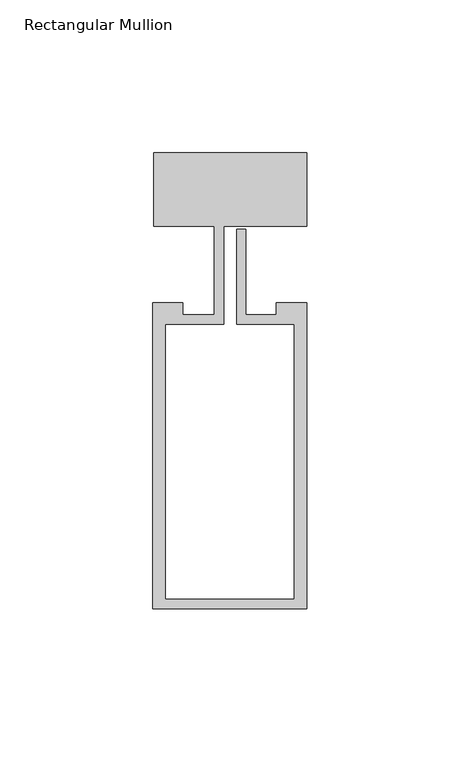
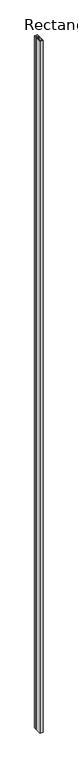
"""IFC4 building model written with IfcOpenShell, lengths in millimetres: member geometry, Rectangular Mullion : Reynaers_CW-50_Mullion-Transom_Horizontal_23.9mm_Facecap-02D."""

from ifc_helpers import new_model, si_unit, frame, origin, place, context, project, spatial, polyline, outline, extrude, source, transform, mapped, element, save


def rectangular_mullion_789dde8b(model_context):
    return source(origin(), model_context, "Body", "SweptSolid", [
        extrude(outline(polyline([(-24.8004059, 36.4), (25.1995941, 36.4), (25.1995941, 12.5), (-1.9004059, 12.5), (-1.9004059, -19.5), (-20.994845, -19.5), (-20.994845, -109.4191338), (21.1995941, -109.4191338), (21.1995941, -19.5), (2.2995941, -19.5), (2.2995941, 11.5), (5.2995941, 11.5), (5.2995941, -16.5), (15.2996495, -16.5), (15.2996495, -12.5), (25.1995941, -12.5), (25.1995941, -112.5), (-24.994845, -112.5), (-24.994845, -12.5), (-15.2996495, -12.5), (-15.2996495, -16.5), (-4.9004059, -16.5), (-4.9004059, 12.5), (-24.8004059, 12.5), (-24.8004059, 36.4)])), frame((0.0, 0.0, -12000.0), z_axis=(0.0, 0.0, 1.0), x_axis=(1.0, 0.0, 0.0)), (0.0, 0.0, 1.0), 12000.0),
    ])


if __name__ == "__main__":
    model = new_model("IFC4")
    model_context = context("Model", 3, world=origin())
    ifc_project = project(units=[si_unit("LENGTHUNIT", "METRE", prefix="MILLI")], contexts=[model_context])
    site = spatial("IfcSite", under=ifc_project)
    building = spatial("IfcBuilding", under=site)
    placement = place(None, origin())
    rectangular_mullion_shape = rectangular_mullion_789dde8b(model_context)
    element("IfcMember", 1, ObjectType="Rectangular Mullion : Reynaers_CW-50_Mullion-Transom_Horizontal_23.9mm_Facecap-02D", at=placement, inside=building, context=model_context, shape_type="MappedRepresentation", body=[
        mapped(rectangular_mullion_shape, transform((0.0, 0.0, 0.0), x_axis=(1.0, 0.0, 0.0), y_axis=(0.0, 1.0, 0.0), z_axis=(0.0, 0.0, 1.0))),
    ])
    save(model, "model.ifc")
